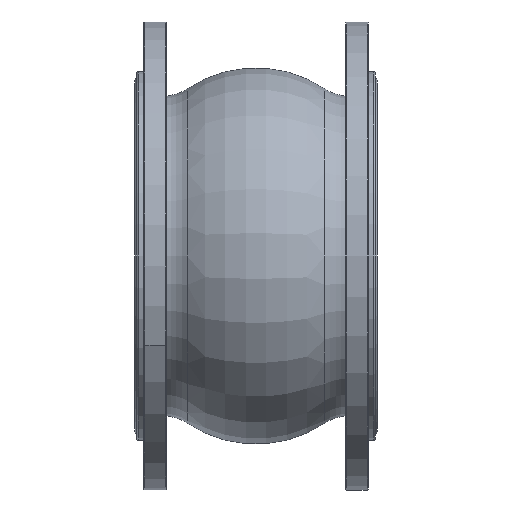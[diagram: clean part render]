
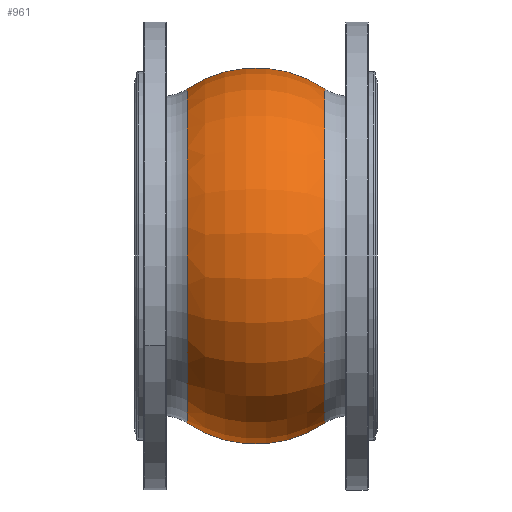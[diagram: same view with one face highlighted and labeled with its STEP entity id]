
A CAD part, front view. The second image highlights one B-rep face of the part: STEP entity #961.
In plain terms, the highlighted toroidal (fillet/blend) face has major radius 72 mm and minor radius 137 mm.
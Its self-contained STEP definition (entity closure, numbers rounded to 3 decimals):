
#26 = VERTEX_POINT ( 'NONE', #219 ) ;
#219 = CARTESIAN_POINT ( 'NONE',  ( 76.481, 0., 185.665 ) ) ;
#294 = FACE_OUTER_BOUND ( 'NONE', #1725, .T. ) ;
#381 = EDGE_CURVE ( 'NONE', #1385, #26, #1049, .T. ) ;
#438 = ORIENTED_EDGE ( 'NONE', *, *, #3187, .F. ) ;
#751 = DIRECTION ( 'NONE',  ( -1., 0., 0. ) ) ;
#862 = AXIS2_PLACEMENT_3D ( 'NONE', #932, #3654, #3225 ) ;
#927 = CIRCLE ( 'NONE', #862, 137. ) ;
#932 = CARTESIAN_POINT ( 'NONE',  ( 0., 0., 72. ) ) ;
#961 = ADVANCED_FACE ( 'NONE', ( #294 ), #4799, .T. ) ;
#1049 = CIRCLE ( 'NONE', #1931, 185.665 ) ;
#1117 = ORIENTED_EDGE ( 'NONE', *, *, #4186, .T. ) ;
#1158 = DIRECTION ( 'NONE',  ( 0., 0., 1. ) ) ;
#1385 = VERTEX_POINT ( 'NONE', #3102 ) ;
#1503 = AXIS2_PLACEMENT_3D ( 'NONE', #1555, #4629, #2331 ) ;
#1555 = CARTESIAN_POINT ( 'NONE',  ( 0., 0., -72. ) ) ;
#1725 = EDGE_LOOP ( 'NONE', ( #438, #3118, #1117, #4885 ) ) ;
#1931 = AXIS2_PLACEMENT_3D ( 'NONE', #4403, #2118, #4803 ) ;
#2118 = DIRECTION ( 'NONE',  ( -1., 0., 0. ) ) ;
#2331 = DIRECTION ( 'NONE',  ( 0., 0., 1. ) ) ;
#2540 = DIRECTION ( 'NONE',  ( 0., 0., 1. ) ) ;
#2569 = CIRCLE ( 'NONE', #2728, 185.665 ) ;
#2728 = AXIS2_PLACEMENT_3D ( 'NONE', #4613, #751, #1158 ) ;
#2958 = VERTEX_POINT ( 'NONE', #4071 ) ;
#3102 = CARTESIAN_POINT ( 'NONE',  ( 76.481, 0., -185.665 ) ) ;
#3118 = ORIENTED_EDGE ( 'NONE', *, *, #381, .T. ) ;
#3187 = EDGE_CURVE ( 'NONE', #1385, #2958, #4934, .T. ) ;
#3225 = DIRECTION ( 'NONE',  ( 0., 0., -1. ) ) ;
#3503 = AXIS2_PLACEMENT_3D ( 'NONE', #4084, #4830, #2540 ) ;
#3654 = DIRECTION ( 'NONE',  ( 0., -1., 0. ) ) ;
#3942 = CARTESIAN_POINT ( 'NONE',  ( -76.481, 0., 185.665 ) ) ;
#4071 = CARTESIAN_POINT ( 'NONE',  ( -76.481, 0., -185.665 ) ) ;
#4084 = CARTESIAN_POINT ( 'NONE',  ( 0., 0., 0. ) ) ;
#4186 = EDGE_CURVE ( 'NONE', #26, #4722, #927, .T. ) ;
#4403 = CARTESIAN_POINT ( 'NONE',  ( 76.481, 0., 0. ) ) ;
#4613 = CARTESIAN_POINT ( 'NONE',  ( -76.481, 0., 0. ) ) ;
#4629 = DIRECTION ( 'NONE',  ( 0., 1., 0. ) ) ;
#4647 = EDGE_CURVE ( 'NONE', #2958, #4722, #2569, .T. ) ;
#4722 = VERTEX_POINT ( 'NONE', #3942 ) ;
#4799 = TOROIDAL_SURFACE ( 'NONE', #3503, 72., 137. ) ;
#4803 = DIRECTION ( 'NONE',  ( 0., 0., 1. ) ) ;
#4830 = DIRECTION ( 'NONE',  ( -1., 0., 0. ) ) ;
#4885 = ORIENTED_EDGE ( 'NONE', *, *, #4647, .F. ) ;
#4934 = CIRCLE ( 'NONE', #1503, 137. ) ;
